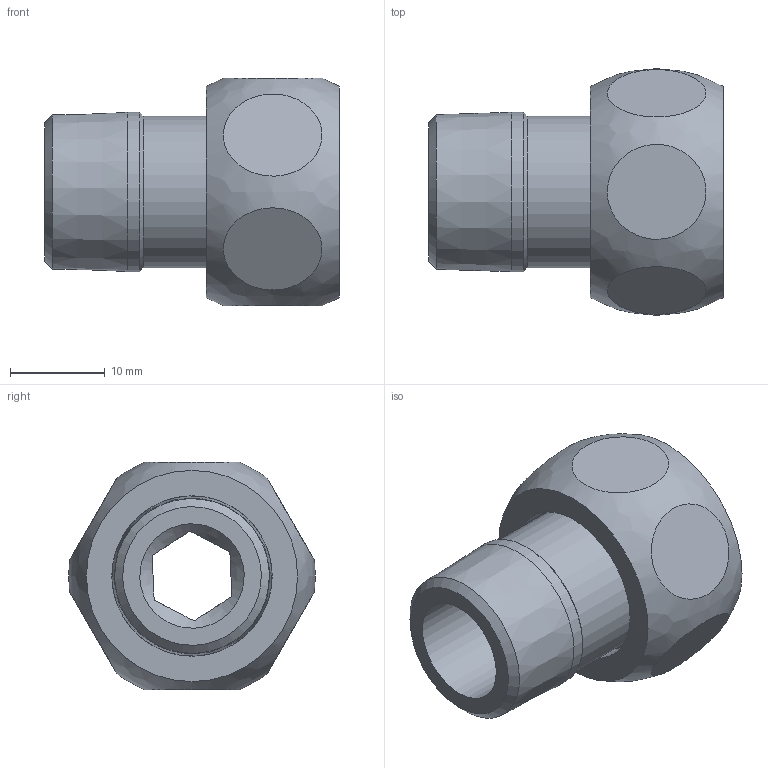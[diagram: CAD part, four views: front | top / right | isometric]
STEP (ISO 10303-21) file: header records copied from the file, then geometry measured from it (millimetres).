
FILE_DESCRIPTION(/* description */ (''),/* implementation_level */ '2;1');
FILE_NAME(/* name */ 'C:\Users\gomulka\Desktop\Nowy folder (2)\1437412+143713812.stp',/* time_stamp */ '2017-10-19T09:57:54+02:00',/* author */ ('gomulka'),/* organization */ (''),/* preprocessor_version */ 'ST-DEVELOPER v15.6',/* originating_system */ 'Autodesk Inventor 2015',/* authorisation */ '');
FILE_SCHEMA (('AUTOMOTIVE_DESIGN { 1 0 10303 214 3 1 1 }'));
Length unit declared in the file: millimetre
Products named in the file (3): 14374_12(2); 14371_38-12(2); Zespół1
Assembly tree (2 placements, depth 2):
  Zespół1
    14374_12(2)
    14371_38-12(2)
Bounding box: 31 x 26 x 24 mm (x, y, z)
Volume: 5911.1 mm3; surface area: 4423.2 mm2
Topology: 2 solids, 2 shells, 36 faces, 63 edges, 38 vertices
Faces by surface type: plane 18, cone 11, cylinder 6, bspline 1
Full cylindrical faces by diameter (mm): 11 x1, 16 x1, 16.806 x1, 16.9 x1, 18.5 x1, 18.63 x1
Entity records: 1170 total; most frequent: CARTESIAN_POINT 480, DIRECTION 136, ORIENTED_EDGE 104, AXIS2_PLACEMENT_3D 65, EDGE_LOOP 58, EDGE_CURVE 52, VERTEX_POINT 38, FACE_OUTER_BOUND 36
